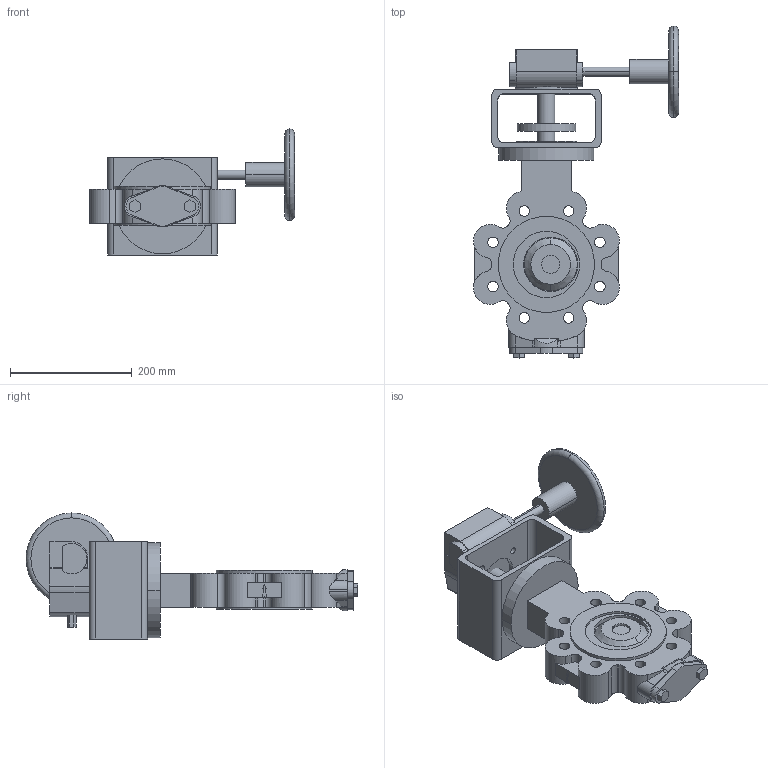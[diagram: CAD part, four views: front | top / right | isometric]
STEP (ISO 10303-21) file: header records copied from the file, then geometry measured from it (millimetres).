
FILE_DESCRIPTION( ( '' ), '1' );
FILE_NAME( 'F:/DE-SHS/TB/OR/04-Sonstiges/daten/Excel/mneugeba/018_ZETRIX-PN40_Getriebe-Rotork/c000006452.stp', '2016-09-19T06:40:47', ( '' ), ( '' ), ' ', ' ', ' ' );
FILE_SCHEMA( ( 'CONFIG_CONTROL_DESIGN' ) );
Length unit declared in the file: millimetre
Products named in the file (2): 1; 2
Bounding box: 336.88 x 545.3 x 207 mm (x, y, z)
Volume: 4951078.5 mm3; surface area: 519549.5 mm2
Topology: 2 solids, 2 shells, 309 faces, 831 edges, 555 vertices
Faces by surface type: cylinder 172, plane 129, cone 4, torus 4
Entity records: 10438 total; most frequent: CARTESIAN_POINT 2186, DIRECTION 1802, ORIENTED_EDGE 1662, EDGE_CURVE 831, AXIS2_PLACEMENT_3D 681, VERTEX_POINT 555, LINE 440, VECTOR 440
